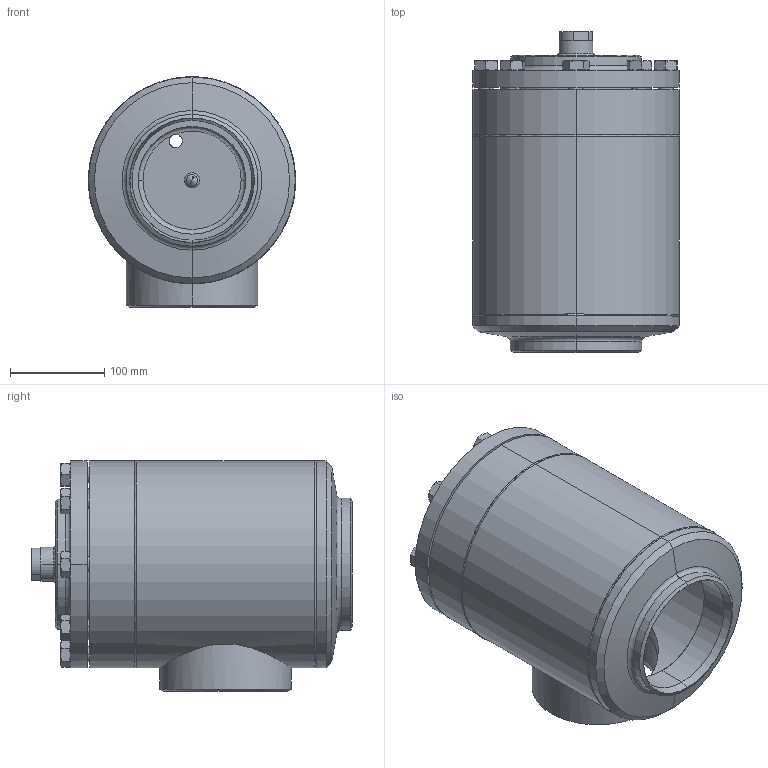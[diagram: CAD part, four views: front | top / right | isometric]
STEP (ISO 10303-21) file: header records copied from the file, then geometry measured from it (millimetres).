
FILE_DESCRIPTION (( 'STEP AP214' ), '1' );
FILE_NAME ('RVD4280xC20A5A0AA00_DN125_1-5bar.STEP', '2010-06-16T11:47:09', ( 'Eckhard Grams' ), ( 'AWP Kälte Klima Armaturen GmbH' ), 'SwSTEP 2.0', 'SolidWorks 2002296', '' );
FILE_SCHEMA (( 'AUTOMOTIVE_DESIGN' ));
Length unit declared in the file: millimetre
Products named in the file (12): RVD4280xC20A5A0AA00_DN125_1-5bar; Verschlußschr4270xE20-DN125_1-5bar_M16x  59_1bar; Geh,kpl 16300E20-5030AA1_DN125_R1_Standard; Kopfstück16300-DN125_Standard; Gehäuse16300-DN125_Standard; Boden16300-DN125_Standard; bead Geh,kpl 16400-20-2_Standard; bead Geh,kpl 16400-20-1_Standard; Rohrstutzen-A16300a-20_R1_Standard; RVD42700B20_Deck+Schr-DN125_1-5bar_Standard; Deckel42700B20-DN125_1-5bar_PS25_Standard; Sechskantschraube-DIN933_M16x 45
Assembly tree (18 placements, depth 3):
  RVD4280xC20A5A0AA00_DN125_1-5bar
    Geh,kpl 16300E20-5030AA1_DN125_R1_Standard
      Boden16300-DN125_Standard
      bead Geh,kpl 16400-20-1_Standard
      Kopfstück16300-DN125_Standard
      Gehäuse16300-DN125_Standard
      bead Geh,kpl 16400-20-2_Standard
      Rohrstutzen-A16300a-20_R1_Standard
    RVD42700B20_Deck+Schr-DN125_1-5bar_Standard
      Sechskantschraube-DIN933_M16x 45  x8
      Deckel42700B20-DN125_1-5bar_PS25_Standard
    Verschlußschr4270xE20-DN125_1-5bar_M16x  59_1bar
Bounding box: 219.51 x 340 x 244.28 mm (x, y, z)
Volume: 4536396.3 mm3; surface area: 843928.4 mm2
Topology: 16 solids, 16 shells, 334 faces, 716 edges, 428 vertices
Faces by surface type: cone 132, plane 101, cylinder 85, torus 8, bspline 8
Entity records: 6682 total; most frequent: CARTESIAN_POINT 2422, DIRECTION 816, ORIENTED_EDGE 700, AXIS2_PLACEMENT_3D 354, EDGE_CURVE 350, VERTEX_POINT 218, EDGE_LOOP 202, CIRCLE 180
